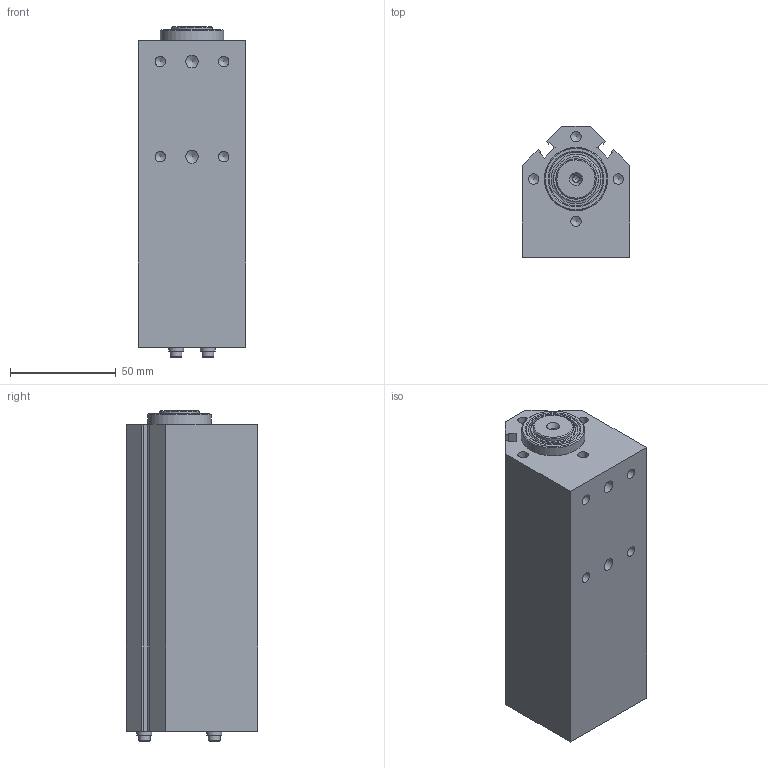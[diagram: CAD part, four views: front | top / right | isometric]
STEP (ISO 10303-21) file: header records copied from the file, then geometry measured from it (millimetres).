
FILE_DESCRIPTION(/* description */ (''),/* implementation_level */ '2;1');
FILE_NAME(/* name */ 'C:\Users\NNemeth\OneDrive - WELKER ENGINEERED PRODUCTS\BP1 Models\BP1XXXAXX00.stp',/* time_stamp */ '2022-07-11T16:57:16-04:00',/* author */ ('NNemeth'),/* organization */ (''),/* preprocessor_version */ 'ST-DEVELOPER v18',/* originating_system */ 'Autodesk Inventor 2020',/* authorisation */ '');
FILE_SCHEMA (('AUTOMOTIVE_DESIGN { 1 0 10303 214 3 1 1 }'));
Products named in the file (3): BP1_Assembly; BP1E02A; BP1 A NoSpring
Assembly tree (2 placements, depth 2):
  BP1_Assembly
    BP1E02A
    BP1 A NoSpring
Bounding box: 50.8 x 62 x 156.3 mm (x, y, z)
Volume: 362364.8 mm3; surface area: 64669.2 mm2
Topology: 2 solids, 10 shells, 181 faces, 476 edges, 322 vertices
Faces by surface type: plane 98, cylinder 48, cone 32, torus 3
Full cylindrical faces by diameter (mm): 2 x2, 2.459 x4, 3 x4, 3.175 x1, 3.4 x4, 4.917 x8, 5.5 x4, 6 x2, 7 x4, 8 x1, 15 x1, 16 x1, 19.05 x3, 23.4 x1, 23.672 x1, 25.4 x1, 28.677 x1, 29.21 x1, 30 x1, 31.75 x2, 31.826 x1
Entity records: 6022 total; most frequent: DIRECTION 1050, CARTESIAN_POINT 1044, ORIENTED_EDGE 922, EDGE_CURVE 461, AXIS2_PLACEMENT_3D 408, VERTEX_POINT 322, LINE 234, VECTOR 234
